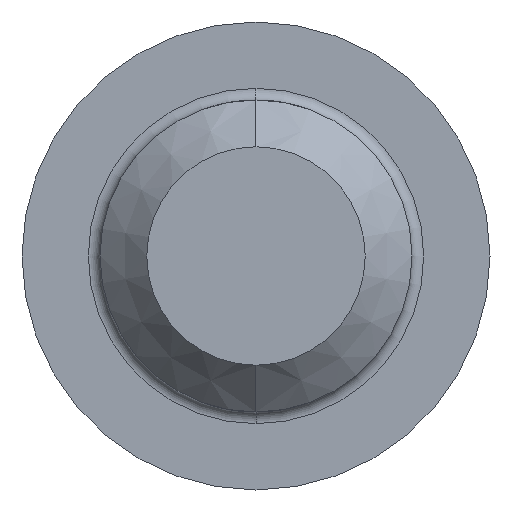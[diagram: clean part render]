
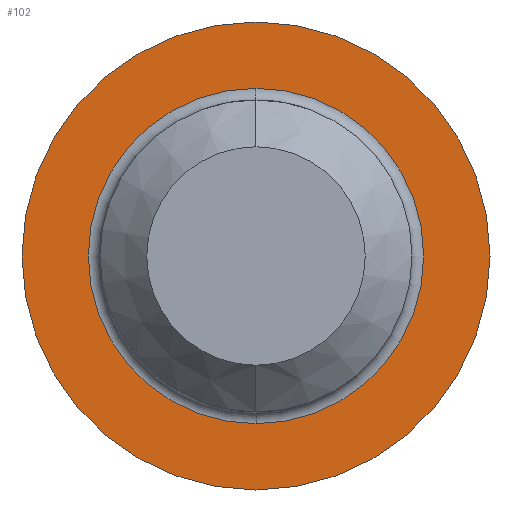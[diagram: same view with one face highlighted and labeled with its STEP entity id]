
A CAD part, left-side view. The second image highlights one B-rep face of the part: STEP entity #102.
In plain terms, the highlighted planar face has unit normal (-1, 0, 0).
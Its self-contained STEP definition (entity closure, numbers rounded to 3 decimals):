
#2 = CARTESIAN_POINT ( 'NONE',  ( 0., 0., 0. ) ) ;
#5 = DIRECTION ( 'NONE',  ( 0., 0., 1. ) ) ;
#6 = DIRECTION ( 'NONE',  ( -1., 0., 0. ) ) ;
#53 = EDGE_LOOP ( 'NONE', ( #108, #104 ) ) ;
#68 = ORIENTED_EDGE ( 'NONE', *, *, #82, .T. ) ;
#82 = EDGE_CURVE ( 'NONE', #203, #202, #243, .T. ) ;
#86 = VERTEX_POINT ( 'NONE', #207 ) ;
#98 = EDGE_CURVE ( 'NONE', #86, #111, #206, .T. ) ;
#102 = ADVANCED_FACE ( 'NONE', ( #231, #229 ), #227, .F. ) ;
#104 = ORIENTED_EDGE ( 'NONE', *, *, #98, .T. ) ;
#105 = ORIENTED_EDGE ( 'NONE', *, *, #186, .T. ) ;
#108 = ORIENTED_EDGE ( 'NONE', *, *, #113, .T. ) ;
#111 = VERTEX_POINT ( 'NONE', #225 ) ;
#113 = EDGE_CURVE ( 'NONE', #111, #86, #238, .T. ) ;
#121 = EDGE_LOOP ( 'NONE', ( #68, #105 ) ) ;
#186 = EDGE_CURVE ( 'NONE', #202, #203, #427, .T. ) ;
#202 = VERTEX_POINT ( 'NONE', #466 ) ;
#203 = VERTEX_POINT ( 'NONE', #483 ) ;
#206 = CIRCLE ( 'NONE', #255, 6. ) ;
#207 = CARTESIAN_POINT ( 'NONE',  ( 0., 0., -6. ) ) ;
#209 = DIRECTION ( 'NONE',  ( 1., 0., 0. ) ) ;
#215 = AXIS2_PLACEMENT_3D ( 'NONE', #262, #209, #241 ) ;
#223 = AXIS2_PLACEMENT_3D ( 'NONE', #251, #250, #249 ) ;
#225 = CARTESIAN_POINT ( 'NONE',  ( 0., 0., 6. ) ) ;
#227 = PLANE ( 'NONE',  #223 ) ;
#229 = FACE_OUTER_BOUND ( 'NONE', #53, .T. ) ;
#231 = FACE_BOUND ( 'NONE', #121, .T. ) ;
#232 = AXIS2_PLACEMENT_3D ( 'NONE', #2, #6, #5 ) ;
#233 = DIRECTION ( 'NONE',  ( 0., 0., 1. ) ) ;
#238 = CIRCLE ( 'NONE', #232, 6. ) ;
#241 = DIRECTION ( 'NONE',  ( 0., 0., -1. ) ) ;
#243 = CIRCLE ( 'NONE', #215, 4.3 ) ;
#249 = DIRECTION ( 'NONE',  ( 0., 0., -1. ) ) ;
#250 = DIRECTION ( 'NONE',  ( 1., 0., 0. ) ) ;
#251 = CARTESIAN_POINT ( 'NONE',  ( 0., 6., 0. ) ) ;
#253 = DIRECTION ( 'NONE',  ( -1., 0., 0. ) ) ;
#254 = CARTESIAN_POINT ( 'NONE',  ( 0., 0., 0. ) ) ;
#255 = AXIS2_PLACEMENT_3D ( 'NONE', #254, #253, #233 ) ;
#262 = CARTESIAN_POINT ( 'NONE',  ( 0., 0., 0. ) ) ;
#407 = DIRECTION ( 'NONE',  ( 0., 0., -1. ) ) ;
#408 = DIRECTION ( 'NONE',  ( 1., 0., 0. ) ) ;
#409 = AXIS2_PLACEMENT_3D ( 'NONE', #419, #408, #407 ) ;
#419 = CARTESIAN_POINT ( 'NONE',  ( 0., 0., 0. ) ) ;
#427 = CIRCLE ( 'NONE', #409, 4.3 ) ;
#466 = CARTESIAN_POINT ( 'NONE',  ( 0., 0., 4.3 ) ) ;
#483 = CARTESIAN_POINT ( 'NONE',  ( 0., 0., -4.3 ) ) ;
